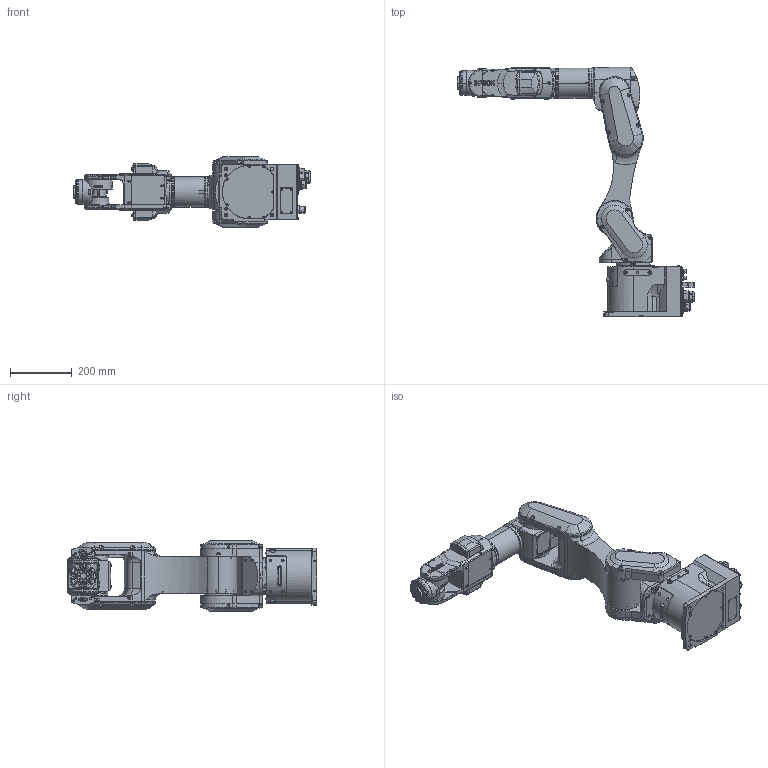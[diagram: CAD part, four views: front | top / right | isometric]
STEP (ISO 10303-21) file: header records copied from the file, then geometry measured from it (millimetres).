
FILE_DESCRIPTION (( 'STEP AP214' ), '1' );
FILE_NAME ('CX7-x901C.STEP', '2026-07-27T18:42:18', ( '' ), ( '' ), 'SwSTEP 2.0', 'SolidWorks 2020', '' );
FILE_SCHEMA (( 'AUTOMOTIVE_DESIGN' ));
Length unit declared in the file: millimetre
Products named in the file (8): CX7-A901C_J6; CX7-A901C_J2; CX7-A901C_BASE; CX7-x901C; CX7-A901C_J4; CX7-A901C_J5; CX7-A901C_J1; CX7-A901C_J3
Assembly tree (7 placements, depth 2):
  CX7-x901C
    CX7-A901C_BASE
    CX7-A901C_J1
    CX7-A901C_J2
    CX7-A901C_J3
    CX7-A901C_J4
    CX7-A901C_J5
    CX7-A901C_J6
Bounding box: 772 x 812 x 228 mm (x, y, z)
Volume: 8767022.2 mm3; surface area: 1216249.4 mm2
Topology: 4 solids, 9 shells, 4292 faces, 10615 edges, 6573 vertices
Faces by surface type: plane 1549, cylinder 1395, cone 839, torus 377, sphere 69, bspline 63
Entity records: 196064 total; most frequent: CARTESIAN_POINT 86468, ORIENTED_EDGE 20896, DIRECTION 13483, EDGE_CURVE 10457, B_SPLINE_CURVE_WITH_KNOTS 7184, VERTEX_POINT 6573, AXIS2_PLACEMENT_3D 5997, EDGE_LOOP 4714
